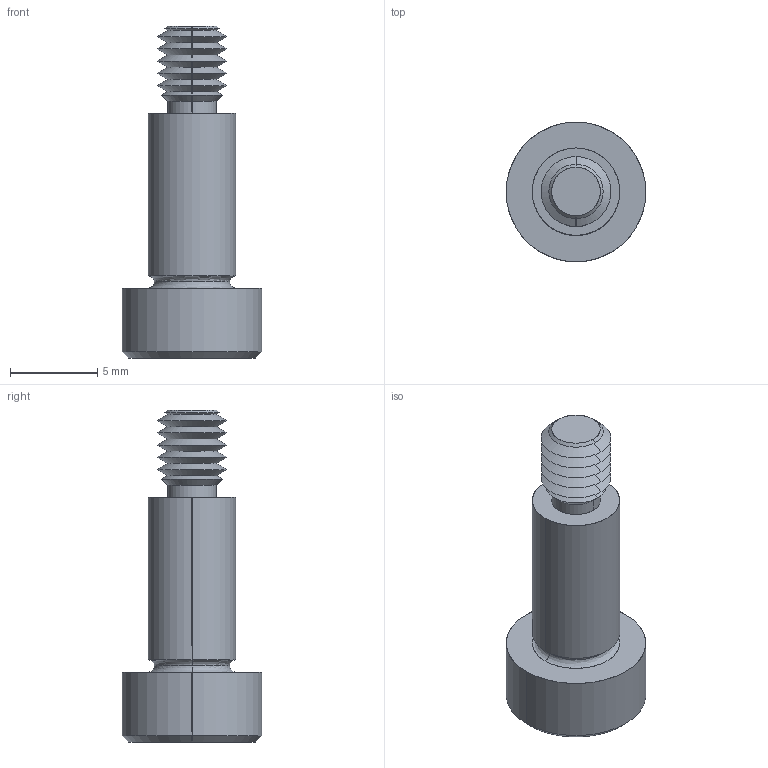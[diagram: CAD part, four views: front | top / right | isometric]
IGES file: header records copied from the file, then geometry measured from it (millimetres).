
Start section: SolidWorks IGES file using analytic representation for surfaces
Global section: file name: C:\Users\IanO\Documents\Temp Folder\GENERAL\SCREW REVISION\P0130_v2\P0130.T5_v2_20220106_IGES\P0130.050-010-T5.igs; native system: SolidWorks 2019; preprocessor: SolidWorks 2019; author: IanO; date: 220106.221441; units: millimetre
Bounding box: 8 x 8 x 19 mm (x, y, z)
Surface area: 473.1 mm2 (no closed solid volume)
Topology: 0 solids, 0 shells, 64 faces, 504 edges, 502 vertices
Faces by surface type: revolution 44, bspline 20
